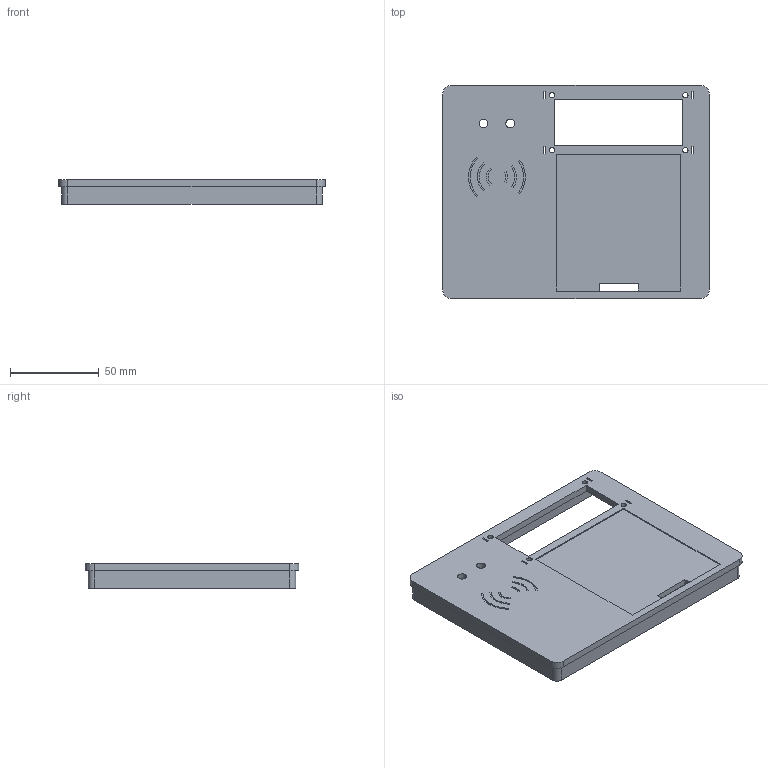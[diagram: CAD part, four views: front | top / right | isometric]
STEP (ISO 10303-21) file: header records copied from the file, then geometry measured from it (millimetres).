
FILE_DESCRIPTION (( 'STEP AP214' ), '1' );
FILE_NAME ('Part1.STEP', '2023-04-22T17:26:02', ( '' ), ( '' ), 'SwSTEP 2.0', 'SolidWorks 2021', '' );
FILE_SCHEMA (( 'AUTOMOTIVE_DESIGN' ));
Length unit declared in the file: millimetre
Products named in the file (1): Part1
Bounding box: 150 x 120 x 14 mm (x, y, z)
Volume: 70739.2 mm3; surface area: 48499.3 mm2
Topology: 1 solids, 1 shells, 119 faces, 330 edges, 220 vertices
Faces by surface type: plane 77, cylinder 42
Entity records: 3898 total; most frequent: CARTESIAN_POINT 670, ORIENTED_EDGE 660, DIRECTION 654, EDGE_CURVE 330, LINE 246, VECTOR 246, VERTEX_POINT 220, AXIS2_PLACEMENT_3D 204
